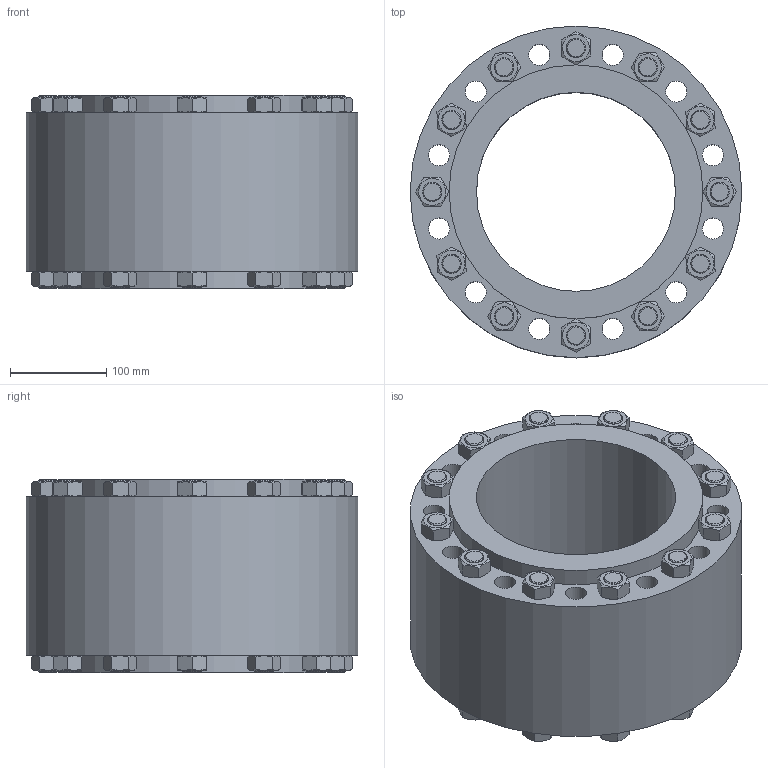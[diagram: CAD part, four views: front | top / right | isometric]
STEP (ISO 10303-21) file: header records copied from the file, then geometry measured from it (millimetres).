
FILE_DESCRIPTION(/* description */ ('ACI TYPE 620 DN200 PN16'),/* implementation_level */ '2;1');
FILE_NAME(/* name */ 'C:\Users\willms\Desktop\ACI-620-200-16.stp',/* time_stamp */ '2020-03-19T10:34:25+01:00',/* author */ ('götz'),/* organization */ ('ACI Industriearmaturen GmbH www.aci24.com info@aci24.com'),/* preprocessor_version */ 'ST-DEVELOPER v16.1',/* originating_system */ 'Autodesk Inventor 2016',/* authorisation */ 'ACI Industriearmaturen GmbH www.aci24.com info@aci24.com');
FILE_SCHEMA (('CONFIG_CONTROL_DESIGN'));
Length unit declared in the file: centimetre
Products named in the file (1): ACI-620-200-16
Bounding box: 345 x 345 x 201 mm (x, y, z)
Volume: 10183745.1 mm3; surface area: 631739.3 mm2
Topology: 1 solids, 25 shells, 404 faces, 913 edges, 585 vertices
Faces by surface type: plane 220, cone 120, cylinder 64
Full cylindrical faces by diameter (mm): 20 x48, 22 x12, 207 x1, 264 x2, 345 x1
Entity records: 10066 total; most frequent: CARTESIAN_POINT 2197, DIRECTION 1450, ORIENTED_EDGE 1360, EDGE_LOOP 688, EDGE_CURVE 680, AXIS2_PLACEMENT_3D 653, VERTEX_POINT 536, FACE_OUTER_BOUND 404
